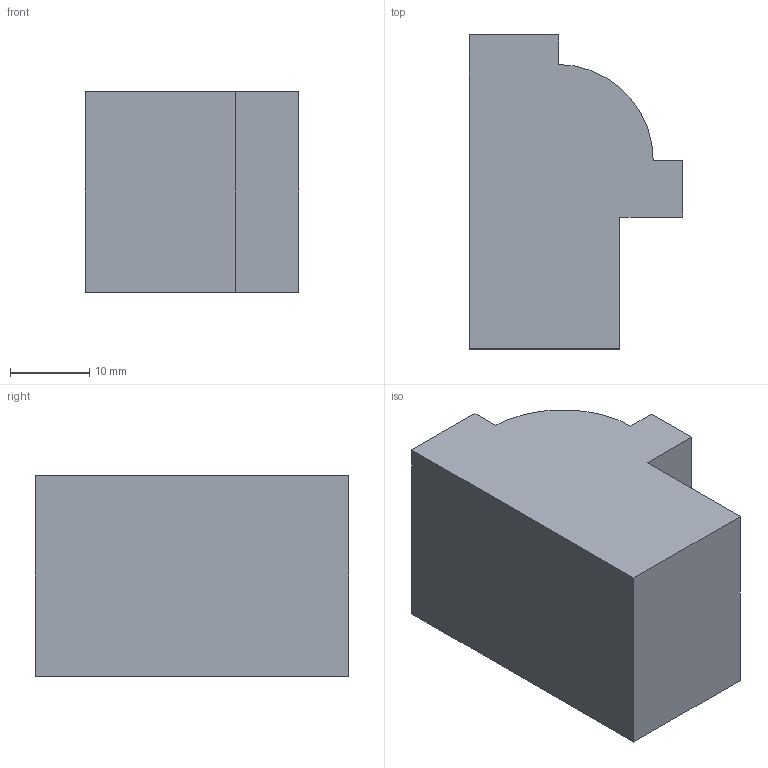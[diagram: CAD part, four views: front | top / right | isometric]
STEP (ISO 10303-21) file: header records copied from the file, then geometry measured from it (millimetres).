
FILE_DESCRIPTION (( 'STEP AP203' ), '1' );
FILE_NAME ('AB65-1FJ.STEP', '2023-08-25T14:10:49', ( '' ), ( '' ), 'SwSTEP 2.0', 'SolidWorks 2020', '' );
FILE_SCHEMA (( 'CONFIG_CONTROL_DESIGN' ));
Length unit declared in the file: inch
Products named in the file (1): AB65-1FJ
Bounding box: 27 x 39.7 x 25.4 mm (x, y, z)
Volume: 20417.8 mm3; surface area: 4863.8 mm2
Topology: 1 solids, 1 shells, 11 faces, 27 edges, 18 vertices
Faces by surface type: plane 10, cylinder 1
Entity records: 402 total; most frequent: CARTESIAN_POINT 57, ORIENTED_EDGE 54, DIRECTION 53, EDGE_CURVE 27, LINE 25, VECTOR 25, VERTEX_POINT 18, AXIS2_PLACEMENT_3D 14
